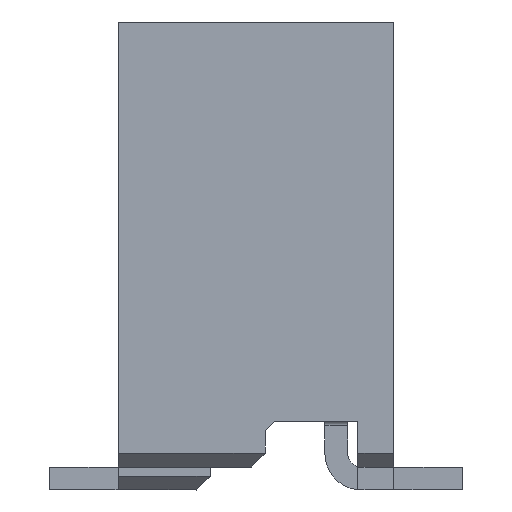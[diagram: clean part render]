
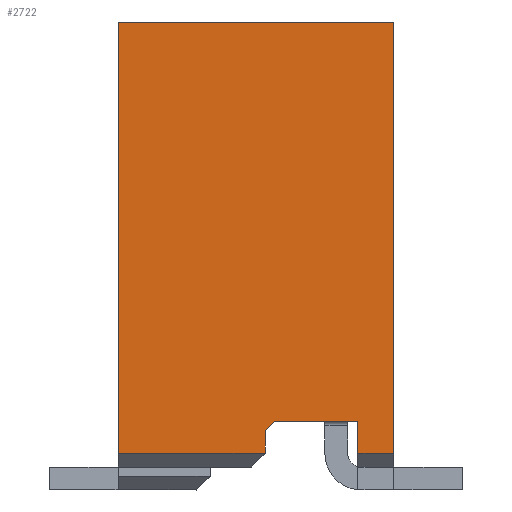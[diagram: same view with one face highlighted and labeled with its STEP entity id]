
A CAD part, left-side view. The second image highlights one B-rep face of the part: STEP entity #2722.
In plain terms, the highlighted planar face has unit normal (-1, 0, 0).
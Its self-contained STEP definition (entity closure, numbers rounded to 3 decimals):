
#195 = PLANE ( 'NONE',  #4051 ) ;
#223 = VERTEX_POINT ( 'NONE', #2273 ) ;
#230 = VERTEX_POINT ( 'NONE', #1763 ) ;
#255 = LINE ( 'NONE', #1144, #457 ) ;
#274 = VECTOR ( 'NONE', #3979, 1000. ) ;
#309 = CARTESIAN_POINT ( 'NONE',  ( 8., 0., 0.4 ) ) ;
#431 = DIRECTION ( 'NONE',  ( 0., 1., 0. ) ) ;
#457 = VECTOR ( 'NONE', #701, 1000. ) ;
#599 = EDGE_CURVE ( 'NONE', #5837, #4647, #2176, .T. ) ;
#701 = DIRECTION ( 'NONE',  ( 0., 0., -1. ) ) ;
#736 = ORIENTED_EDGE ( 'NONE', *, *, #1121, .T. ) ;
#763 = CARTESIAN_POINT ( 'NONE',  ( 8., -2.61, 0.75 ) ) ;
#921 = CARTESIAN_POINT ( 'NONE',  ( 8., 0., 5.1 ) ) ;
#1075 = DIRECTION ( 'NONE',  ( 0., 0., 1. ) ) ;
#1089 = VECTOR ( 'NONE', #5873, 1000. ) ;
#1106 = DIRECTION ( 'NONE',  ( -1., 0., 0. ) ) ;
#1121 = EDGE_CURVE ( 'NONE', #2228, #230, #3196, .T. ) ;
#1136 = VECTOR ( 'NONE', #5014, 1000. ) ;
#1144 = CARTESIAN_POINT ( 'NONE',  ( 8., 0., 0. ) ) ;
#1257 = CARTESIAN_POINT ( 'NONE',  ( 8., -2.003, 0.75 ) ) ;
#1544 = LINE ( 'NONE', #5168, #4519 ) ;
#1591 = EDGE_CURVE ( 'NONE', #1608, #3466, #1544, .T. ) ;
#1608 = VERTEX_POINT ( 'NONE', #4282 ) ;
#1745 = CARTESIAN_POINT ( 'NONE',  ( 8., -0.475, -0.475 ) ) ;
#1763 = CARTESIAN_POINT ( 'NONE',  ( 8., -3., 5.1 ) ) ;
#1785 = ORIENTED_EDGE ( 'NONE', *, *, #5311, .T. ) ;
#1830 = EDGE_CURVE ( 'NONE', #2228, #3466, #5825, .T. ) ;
#2014 = EDGE_CURVE ( 'NONE', #5707, #4647, #255, .T. ) ;
#2102 = EDGE_CURVE ( 'NONE', #5341, #1608, #5163, .T. ) ;
#2176 = LINE ( 'NONE', #309, #3654 ) ;
#2228 = VERTEX_POINT ( 'NONE', #3701 ) ;
#2273 = CARTESIAN_POINT ( 'NONE',  ( 8., -1.6, 0.65 ) ) ;
#2473 = CARTESIAN_POINT ( 'NONE',  ( 8., -1.7, 0.75 ) ) ;
#2722 = ADVANCED_FACE ( 'NONE', ( #3427 ), #195, .T. ) ;
#2811 = CARTESIAN_POINT ( 'NONE',  ( 8., -2.61, 0.4 ) ) ;
#3122 = DIRECTION ( 'NONE',  ( 0., 1., 0. ) ) ;
#3177 = ORIENTED_EDGE ( 'NONE', *, *, #1830, .F. ) ;
#3196 = LINE ( 'NONE', #4032, #1089 ) ;
#3203 = CARTESIAN_POINT ( 'NONE',  ( 8., -1.6, 0. ) ) ;
#3427 = FACE_OUTER_BOUND ( 'NONE', #4277, .T. ) ;
#3466 = VERTEX_POINT ( 'NONE', #2811 ) ;
#3538 = LINE ( 'NONE', #1745, #274 ) ;
#3556 = CARTESIAN_POINT ( 'NONE',  ( 8., -1.6, 0.4 ) ) ;
#3557 = ORIENTED_EDGE ( 'NONE', *, *, #2102, .T. ) ;
#3571 = VECTOR ( 'NONE', #431, 1000. ) ;
#3654 = VECTOR ( 'NONE', #4930, 1000. ) ;
#3701 = CARTESIAN_POINT ( 'NONE',  ( 8., -3., 0.4 ) ) ;
#3855 = ORIENTED_EDGE ( 'NONE', *, *, #2014, .T. ) ;
#3880 = VECTOR ( 'NONE', #3122, 1000. ) ;
#3979 = DIRECTION ( 'NONE',  ( 0., -0.707, 0.707 ) ) ;
#4032 = CARTESIAN_POINT ( 'NONE',  ( 8., -3., 0. ) ) ;
#4051 = AXIS2_PLACEMENT_3D ( 'NONE', #5231, #1106, #1075 ) ;
#4128 = LINE ( 'NONE', #3203, #1136 ) ;
#4176 = ORIENTED_EDGE ( 'NONE', *, *, #4464, .T. ) ;
#4277 = EDGE_LOOP ( 'NONE', ( #4682, #4176, #3557, #4379, #3177, #736, #1785, #3855, #5241 ) ) ;
#4282 = CARTESIAN_POINT ( 'NONE',  ( 8., -2.61, 0.75 ) ) ;
#4379 = ORIENTED_EDGE ( 'NONE', *, *, #1591, .T. ) ;
#4463 = LINE ( 'NONE', #4866, #3880 ) ;
#4464 = EDGE_CURVE ( 'NONE', #223, #5341, #3538, .T. ) ;
#4490 = CARTESIAN_POINT ( 'NONE',  ( 8., 0., 0.4 ) ) ;
#4519 = VECTOR ( 'NONE', #5143, 1000. ) ;
#4647 = VERTEX_POINT ( 'NONE', #5243 ) ;
#4682 = ORIENTED_EDGE ( 'NONE', *, *, #5731, .F. ) ;
#4784 = CARTESIAN_POINT ( 'NONE',  ( 8., -1.7, 0.75 ) ) ;
#4866 = CARTESIAN_POINT ( 'NONE',  ( 8., 0., 5.1 ) ) ;
#4909 = CARTESIAN_POINT ( 'NONE',  ( 8., -2.307, 0.75 ) ) ;
#4930 = DIRECTION ( 'NONE',  ( 0., 1., 0. ) ) ;
#5014 = DIRECTION ( 'NONE',  ( 0., 0., -1. ) ) ;
#5143 = DIRECTION ( 'NONE',  ( 0., 0., -1. ) ) ;
#5163 = B_SPLINE_CURVE_WITH_KNOTS ( 'NONE', 3,
 ( #4784, #1257, #4909, #763 ),
 .UNSPECIFIED., .F., .F.,
 ( 4, 4 ),
 ( 0., 1. ),
 .UNSPECIFIED. ) ;
#5168 = CARTESIAN_POINT ( 'NONE',  ( 8., -2.61, 0. ) ) ;
#5231 = CARTESIAN_POINT ( 'NONE',  ( 8., 0., 0. ) ) ;
#5241 = ORIENTED_EDGE ( 'NONE', *, *, #599, .F. ) ;
#5243 = CARTESIAN_POINT ( 'NONE',  ( 8., 0., 0.4 ) ) ;
#5311 = EDGE_CURVE ( 'NONE', #230, #5707, #4463, .T. ) ;
#5341 = VERTEX_POINT ( 'NONE', #2473 ) ;
#5707 = VERTEX_POINT ( 'NONE', #921 ) ;
#5731 = EDGE_CURVE ( 'NONE', #223, #5837, #4128, .T. ) ;
#5825 = LINE ( 'NONE', #4490, #3571 ) ;
#5837 = VERTEX_POINT ( 'NONE', #3556 ) ;
#5873 = DIRECTION ( 'NONE',  ( 0., 0., 1. ) ) ;
